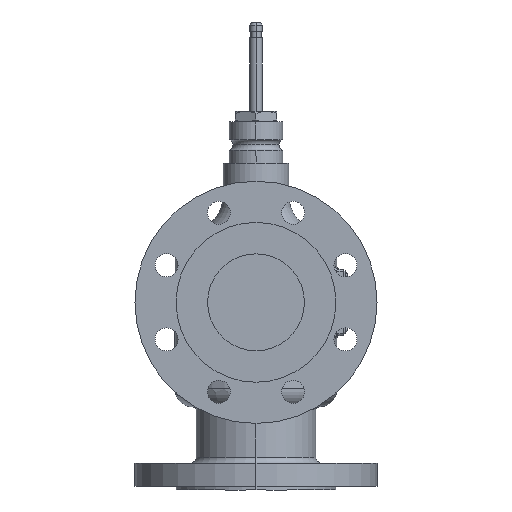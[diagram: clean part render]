
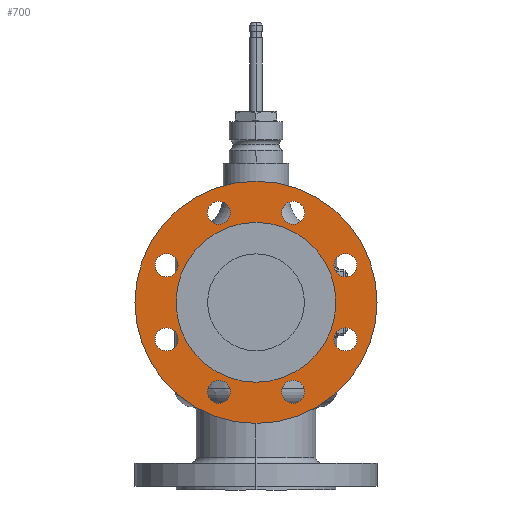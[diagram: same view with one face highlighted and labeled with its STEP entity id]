
A CAD part, front view. The second image highlights one B-rep face of the part: STEP entity #700.
In plain terms, the highlighted planar face has unit normal (0, -1, 0).
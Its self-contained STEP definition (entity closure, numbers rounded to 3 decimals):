
#96=PLANE('',#3306);
#166=FACE_BOUND('',#1082,.T.);
#167=FACE_BOUND('',#1083,.T.);
#168=FACE_BOUND('',#1084,.T.);
#169=FACE_BOUND('',#1085,.T.);
#170=FACE_BOUND('',#1086,.T.);
#171=FACE_BOUND('',#1087,.T.);
#172=FACE_BOUND('',#1088,.T.);
#173=FACE_BOUND('',#1089,.T.);
#174=FACE_BOUND('',#1090,.T.);
#175=FACE_BOUND('',#1091,.T.);
#700=ADVANCED_FACE('',(#166,#167,#168,#169,#170,#171,#172,#173,#174,#175),
#96,.T.);
#1082=EDGE_LOOP('',(#1795,#1796));
#1083=EDGE_LOOP('',(#1797,#1798));
#1084=EDGE_LOOP('',(#1799,#1800));
#1085=EDGE_LOOP('',(#1801,#1802));
#1086=EDGE_LOOP('',(#1803,#1804));
#1087=EDGE_LOOP('',(#1805,#1806));
#1088=EDGE_LOOP('',(#1807,#1808));
#1089=EDGE_LOOP('',(#1809,#1810));
#1090=EDGE_LOOP('',(#1811,#1812));
#1091=EDGE_LOOP('',(#1813,#1814));
#1795=ORIENTED_EDGE('',*,*,#2640,.T.);
#1796=ORIENTED_EDGE('',*,*,#2685,.T.);
#1797=ORIENTED_EDGE('',*,*,#2672,.T.);
#1798=ORIENTED_EDGE('',*,*,#2673,.T.);
#1799=ORIENTED_EDGE('',*,*,#2669,.T.);
#1800=ORIENTED_EDGE('',*,*,#2674,.T.);
#1801=ORIENTED_EDGE('',*,*,#2666,.T.);
#1802=ORIENTED_EDGE('',*,*,#2675,.T.);
#1803=ORIENTED_EDGE('',*,*,#2663,.T.);
#1804=ORIENTED_EDGE('',*,*,#2676,.T.);
#1805=ORIENTED_EDGE('',*,*,#2660,.T.);
#1806=ORIENTED_EDGE('',*,*,#2677,.T.);
#1807=ORIENTED_EDGE('',*,*,#2657,.T.);
#1808=ORIENTED_EDGE('',*,*,#2678,.T.);
#1809=ORIENTED_EDGE('',*,*,#2654,.T.);
#1810=ORIENTED_EDGE('',*,*,#2679,.T.);
#1811=ORIENTED_EDGE('',*,*,#2651,.T.);
#1812=ORIENTED_EDGE('',*,*,#2680,.T.);
#1813=ORIENTED_EDGE('',*,*,#2642,.F.);
#1814=ORIENTED_EDGE('',*,*,#2684,.F.);
#2275=VERTEX_POINT('',#7402);
#2276=VERTEX_POINT('',#7404);
#2277=VERTEX_POINT('',#7408);
#2279=VERTEX_POINT('',#7411);
#2285=VERTEX_POINT('',#7426);
#2286=VERTEX_POINT('',#7428);
#2287=VERTEX_POINT('',#7432);
#2288=VERTEX_POINT('',#7434);
#2289=VERTEX_POINT('',#7438);
#2290=VERTEX_POINT('',#7440);
#2291=VERTEX_POINT('',#7444);
#2292=VERTEX_POINT('',#7446);
#2293=VERTEX_POINT('',#7450);
#2294=VERTEX_POINT('',#7452);
#2295=VERTEX_POINT('',#7456);
#2296=VERTEX_POINT('',#7458);
#2297=VERTEX_POINT('',#7462);
#2298=VERTEX_POINT('',#7464);
#2299=VERTEX_POINT('',#7468);
#2300=VERTEX_POINT('',#7470);
#2640=EDGE_CURVE('',#2275,#2276,#2945,.T.);
#2642=EDGE_CURVE('',#2277,#2279,#2946,.T.);
#2651=EDGE_CURVE('',#2285,#2286,#2950,.T.);
#2654=EDGE_CURVE('',#2287,#2288,#2951,.T.);
#2657=EDGE_CURVE('',#2289,#2290,#2952,.T.);
#2660=EDGE_CURVE('',#2291,#2292,#2953,.T.);
#2663=EDGE_CURVE('',#2293,#2294,#2954,.T.);
#2666=EDGE_CURVE('',#2295,#2296,#2955,.T.);
#2669=EDGE_CURVE('',#2297,#2298,#2956,.T.);
#2672=EDGE_CURVE('',#2299,#2300,#2957,.T.);
#2673=EDGE_CURVE('',#2300,#2299,#2958,.T.);
#2674=EDGE_CURVE('',#2298,#2297,#2959,.T.);
#2675=EDGE_CURVE('',#2296,#2295,#2960,.T.);
#2676=EDGE_CURVE('',#2294,#2293,#2961,.T.);
#2677=EDGE_CURVE('',#2292,#2291,#2962,.T.);
#2678=EDGE_CURVE('',#2290,#2289,#2963,.T.);
#2679=EDGE_CURVE('',#2288,#2287,#2964,.T.);
#2680=EDGE_CURVE('',#2286,#2285,#2965,.T.);
#2684=EDGE_CURVE('',#2279,#2277,#2969,.T.);
#2685=EDGE_CURVE('',#2276,#2275,#2970,.T.);
#2945=CIRCLE('',#3257,100.);
#2946=CIRCLE('',#3259,66.);
#2950=CIRCLE('',#3265,9.5);
#2951=CIRCLE('',#3267,9.5);
#2952=CIRCLE('',#3269,9.5);
#2953=CIRCLE('',#3271,9.5);
#2954=CIRCLE('',#3273,9.5);
#2955=CIRCLE('',#3275,9.5);
#2956=CIRCLE('',#3277,9.5);
#2957=CIRCLE('',#3279,9.5);
#2958=CIRCLE('',#3281,9.5);
#2959=CIRCLE('',#3283,9.5);
#2960=CIRCLE('',#3285,9.5);
#2961=CIRCLE('',#3287,9.5);
#2962=CIRCLE('',#3289,9.5);
#2963=CIRCLE('',#3291,9.5);
#2964=CIRCLE('',#3293,9.5);
#2965=CIRCLE('',#3295,9.5);
#2969=CIRCLE('',#3301,66.);
#2970=CIRCLE('',#3304,100.);
#3257=AXIS2_PLACEMENT_3D('',#7405,#3930,#3931);
#3259=AXIS2_PLACEMENT_3D('',#7410,#3935,#3936);
#3265=AXIS2_PLACEMENT_3D('',#7429,#3952,#3953);
#3267=AXIS2_PLACEMENT_3D('',#7435,#3958,#3959);
#3269=AXIS2_PLACEMENT_3D('',#7441,#3964,#3965);
#3271=AXIS2_PLACEMENT_3D('',#7447,#3970,#3971);
#3273=AXIS2_PLACEMENT_3D('',#7453,#3976,#3977);
#3275=AXIS2_PLACEMENT_3D('',#7459,#3982,#3983);
#3277=AXIS2_PLACEMENT_3D('',#7465,#3988,#3989);
#3279=AXIS2_PLACEMENT_3D('',#7471,#3994,#3995);
#3281=AXIS2_PLACEMENT_3D('',#7473,#3998,#3999);
#3283=AXIS2_PLACEMENT_3D('',#7475,#4002,#4003);
#3285=AXIS2_PLACEMENT_3D('',#7477,#4006,#4007);
#3287=AXIS2_PLACEMENT_3D('',#7479,#4010,#4011);
#3289=AXIS2_PLACEMENT_3D('',#7481,#4014,#4015);
#3291=AXIS2_PLACEMENT_3D('',#7483,#4018,#4019);
#3293=AXIS2_PLACEMENT_3D('',#7485,#4022,#4023);
#3295=AXIS2_PLACEMENT_3D('',#7487,#4026,#4027);
#3301=AXIS2_PLACEMENT_3D('',#7493,#4038,#4039);
#3304=AXIS2_PLACEMENT_3D('',#7496,#4044,#4045);
#3306=AXIS2_PLACEMENT_3D('',#7498,#4048,#4049);
#3930=DIRECTION('',(0.,-1.,0.));
#3931=DIRECTION('',(0.,0.,-1.));
#3935=DIRECTION('',(0.,-1.,0.));
#3936=DIRECTION('',(0.,0.,-1.));
#3952=DIRECTION('',(0.,1.,0.));
#3953=DIRECTION('',(0.,0.,-1.));
#3958=DIRECTION('',(0.,1.,0.));
#3959=DIRECTION('',(0.,0.,-1.));
#3964=DIRECTION('',(0.,1.,0.));
#3965=DIRECTION('',(0.,0.,-1.));
#3970=DIRECTION('',(0.,1.,0.));
#3971=DIRECTION('',(0.,0.,-1.));
#3976=DIRECTION('',(0.,1.,0.));
#3977=DIRECTION('',(0.,0.,-1.));
#3982=DIRECTION('',(0.,1.,0.));
#3983=DIRECTION('',(0.,0.,-1.));
#3988=DIRECTION('',(0.,1.,0.));
#3989=DIRECTION('',(0.,0.,-1.));
#3994=DIRECTION('',(0.,1.,0.));
#3995=DIRECTION('',(0.,0.,-1.));
#3998=DIRECTION('',(0.,1.,0.));
#3999=DIRECTION('',(0.,0.,-1.));
#4002=DIRECTION('',(0.,1.,0.));
#4003=DIRECTION('',(0.,0.,-1.));
#4006=DIRECTION('',(0.,1.,0.));
#4007=DIRECTION('',(0.,0.,-1.));
#4010=DIRECTION('',(0.,1.,0.));
#4011=DIRECTION('',(0.,0.,-1.));
#4014=DIRECTION('',(0.,1.,0.));
#4015=DIRECTION('',(0.,0.,-1.));
#4018=DIRECTION('',(0.,1.,0.));
#4019=DIRECTION('',(0.,0.,-1.));
#4022=DIRECTION('',(0.,1.,0.));
#4023=DIRECTION('',(0.,0.,-1.));
#4026=DIRECTION('',(0.,1.,0.));
#4027=DIRECTION('',(0.,0.,-1.));
#4038=DIRECTION('',(0.,-1.,0.));
#4039=DIRECTION('',(0.,0.,-1.));
#4044=DIRECTION('',(0.,-1.,0.));
#4045=DIRECTION('',(0.,0.,-1.));
#4048=DIRECTION('',(0.,-1.,0.));
#4049=DIRECTION('',(0.,0.,1.));
#7402=CARTESIAN_POINT('',(0.,158.,-100.));
#7404=CARTESIAN_POINT('',(0.,158.,100.));
#7405=CARTESIAN_POINT('',(0.,158.,0.));
#7408=CARTESIAN_POINT('',(0.,158.,-66.));
#7410=CARTESIAN_POINT('',(0.,158.,0.));
#7411=CARTESIAN_POINT('',(0.,158.,66.));
#7426=CARTESIAN_POINT('',(73.91,158.,21.115));
#7428=CARTESIAN_POINT('',(73.91,158.,40.115));
#7429=CARTESIAN_POINT('',(73.91,158.,30.615));
#7432=CARTESIAN_POINT('',(30.615,158.,64.41));
#7434=CARTESIAN_POINT('',(30.615,158.,83.41));
#7435=CARTESIAN_POINT('',(30.615,158.,73.91));
#7438=CARTESIAN_POINT('',(-30.615,158.,64.41));
#7440=CARTESIAN_POINT('',(-30.615,158.,83.41));
#7441=CARTESIAN_POINT('',(-30.615,158.,73.91));
#7444=CARTESIAN_POINT('',(-73.91,158.,-40.115));
#7446=CARTESIAN_POINT('',(-73.91,158.,-21.115));
#7447=CARTESIAN_POINT('',(-73.91,158.,-30.615));
#7450=CARTESIAN_POINT('',(-73.91,158.,21.115));
#7452=CARTESIAN_POINT('',(-73.91,158.,40.115));
#7453=CARTESIAN_POINT('',(-73.91,158.,30.615));
#7456=CARTESIAN_POINT('',(-30.615,158.,-83.41));
#7458=CARTESIAN_POINT('',(-30.615,158.,-64.41));
#7459=CARTESIAN_POINT('',(-30.615,158.,-73.91));
#7462=CARTESIAN_POINT('',(30.615,158.,-83.41));
#7464=CARTESIAN_POINT('',(30.615,158.,-64.41));
#7465=CARTESIAN_POINT('',(30.615,158.,-73.91));
#7468=CARTESIAN_POINT('',(73.91,158.,-40.115));
#7470=CARTESIAN_POINT('',(73.91,158.,-21.115));
#7471=CARTESIAN_POINT('',(73.91,158.,-30.615));
#7473=CARTESIAN_POINT('',(73.91,158.,-30.615));
#7475=CARTESIAN_POINT('',(30.615,158.,-73.91));
#7477=CARTESIAN_POINT('',(-30.615,158.,-73.91));
#7479=CARTESIAN_POINT('',(-73.91,158.,30.615));
#7481=CARTESIAN_POINT('',(-73.91,158.,-30.615));
#7483=CARTESIAN_POINT('',(-30.615,158.,73.91));
#7485=CARTESIAN_POINT('',(30.615,158.,73.91));
#7487=CARTESIAN_POINT('',(73.91,158.,30.615));
#7493=CARTESIAN_POINT('',(0.,158.,0.));
#7496=CARTESIAN_POINT('',(0.,158.,0.));
#7498=CARTESIAN_POINT('',(0.,158.,0.));
